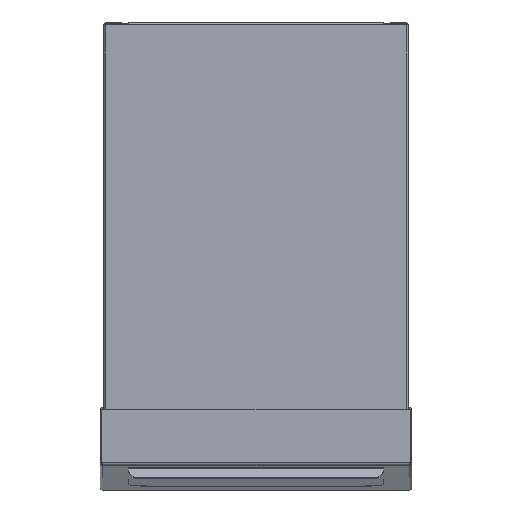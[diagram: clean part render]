
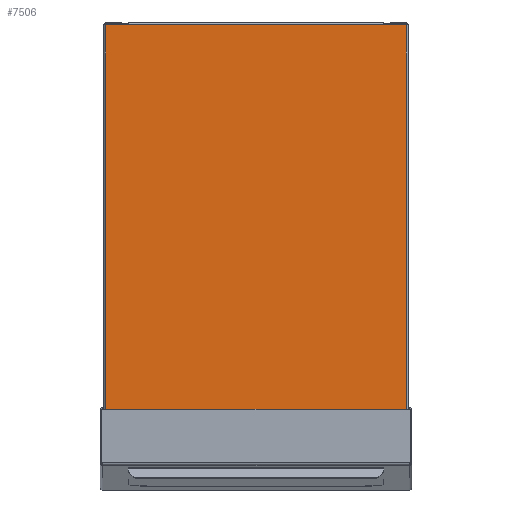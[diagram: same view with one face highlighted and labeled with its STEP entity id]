
A CAD part, front view. The second image highlights one B-rep face of the part: STEP entity #7506.
In plain terms, the highlighted planar face has unit normal (0, -1, 0).
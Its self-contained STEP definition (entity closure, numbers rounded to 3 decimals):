
#1012=ORIENTED_EDGE('',*,*,#3068,.F.);
#1013=ORIENTED_EDGE('',*,*,#3069,.T.);
#1014=ORIENTED_EDGE('',*,*,#3030,.T.);
#1015=ORIENTED_EDGE('',*,*,#3029,.T.);
#1016=ORIENTED_EDGE('',*,*,#3035,.F.);
#1017=ORIENTED_EDGE('',*,*,#3045,.T.);
#3029=EDGE_CURVE('',#4057,#4072,#4783,.T.);
#3030=EDGE_CURVE('',#4070,#4057,#4784,.T.);
#3035=EDGE_CURVE('',#4064,#4072,#4788,.T.);
#3045=EDGE_CURVE('',#4064,#4080,#4795,.T.);
#3068=EDGE_CURVE('',#4098,#4080,#4807,.T.);
#3069=EDGE_CURVE('',#4098,#4070,#4808,.T.);
#4057=VERTEX_POINT('',#11690);
#4064=VERTEX_POINT('',#11719);
#4070=VERTEX_POINT('',#11750);
#4072=VERTEX_POINT('',#11756);
#4080=VERTEX_POINT('',#11787);
#4098=VERTEX_POINT('',#11837);
#4783=LINE('',#11757,#5457);
#4784=LINE('',#11759,#5458);
#4788=LINE('',#11768,#5462);
#4795=LINE('',#11788,#5469);
#4807=LINE('',#11836,#5481);
#4808=LINE('',#11838,#5482);
#5457=VECTOR('',#9278,1000.);
#5458=VECTOR('',#9281,1000.);
#5462=VECTOR('',#9293,1000.);
#5469=VECTOR('',#9312,1000.);
#5481=VECTOR('',#9362,1000.);
#5482=VECTOR('',#9363,1000.);
#6122=EDGE_LOOP('',(#1012,#1013,#1014,#1015,#1016,#1017));
#6704=FACE_BOUND('',#6122,.T.);
#7244=PLANE('',#8306);
#7506=ADVANCED_FACE('',(#6704),#7244,.T.);
#8306=AXIS2_PLACEMENT_3D('',#11835,#9360,#9361);
#9278=DIRECTION('',(0.,0.,1.));
#9281=DIRECTION('',(1.,0.,0.));
#9293=DIRECTION('',(1.,0.,0.));
#9312=DIRECTION('',(-1.,0.,0.));
#9360=DIRECTION('',(0.,-1.,0.));
#9361=DIRECTION('',(0.,0.,-1.));
#9362=DIRECTION('',(1.,0.,0.));
#9363=DIRECTION('',(0.,0.,-1.));
#11690=CARTESIAN_POINT('',(134.9,-91.,-178.85));
#11719=CARTESIAN_POINT('',(115.,-91.,178.85));
#11750=CARTESIAN_POINT('',(-134.9,-91.,-178.85));
#11756=CARTESIAN_POINT('',(134.9,-91.,178.85));
#11757=CARTESIAN_POINT('',(134.9,-91.,-178.85));
#11759=CARTESIAN_POINT('',(125.9,-91.,-178.85));
#11768=CARTESIAN_POINT('',(125.9,-91.,178.85));
#11787=CARTESIAN_POINT('',(-115.,-91.,178.85));
#11788=CARTESIAN_POINT('',(115.,-91.,178.85));
#11835=CARTESIAN_POINT('',(125.9,-91.,-178.85));
#11836=CARTESIAN_POINT('',(125.9,-91.,178.85));
#11837=CARTESIAN_POINT('',(-134.9,-91.,178.85));
#11838=CARTESIAN_POINT('',(-134.9,-91.,178.85));
